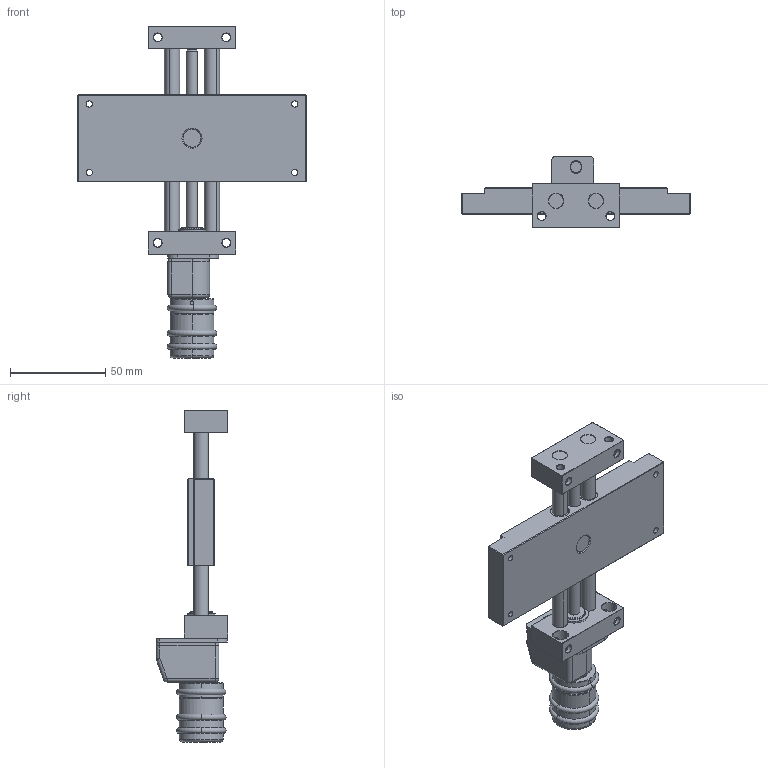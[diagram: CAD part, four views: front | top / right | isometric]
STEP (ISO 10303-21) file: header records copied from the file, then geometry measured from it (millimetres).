
FILE_DESCRIPTION (( 'STEP AP203' ), '1' );
FILE_NAME ('KT4808-L-PA-Kreuztisch.STEP', '2016-01-15T17:05:56', ( '' ), ( '' ), 'SwSTEP 2.0', 'SolidWorks 2014', '' );
FILE_SCHEMA (( 'CONFIG_CONTROL_DESIGN' ));
Length unit declared in the file: millimetre
Products named in the file (4): PT4808-000-01-Festteil-PA(E)_n_Standard; PA0812-PTHT-000-Positionsanzeiger-komplett_n_Standard; KT08-000-03-L-Schlitten-komplett; KT4808-L-PA-Kreuztisch
Assembly tree (3 placements, depth 2):
  KT4808-L-PA-Kreuztisch
    PT4808-000-01-Festteil-PA(E)_n_Standard
    PA0812-PTHT-000-Positionsanzeiger-komplett_n_Standard
    KT08-000-03-L-Schlitten-komplett
Bounding box: 120 x 37.7 x 174.53 mm (x, y, z)
Volume: 125669.8 mm3; surface area: 47247.2 mm2
Topology: 5 solids, 5 shells, 532 faces, 1268 edges, 787 vertices
Faces by surface type: plane 202, cylinder 184, cone 118, torus 15, sphere 7, bspline 6
Entity records: 17069 total; most frequent: CARTESIAN_POINT 3933, DIRECTION 2825, ORIENTED_EDGE 2518, EDGE_CURVE 1259, AXIS2_PLACEMENT_3D 1093, VERTEX_POINT 787, EDGE_LOOP 642, VECTOR 639
